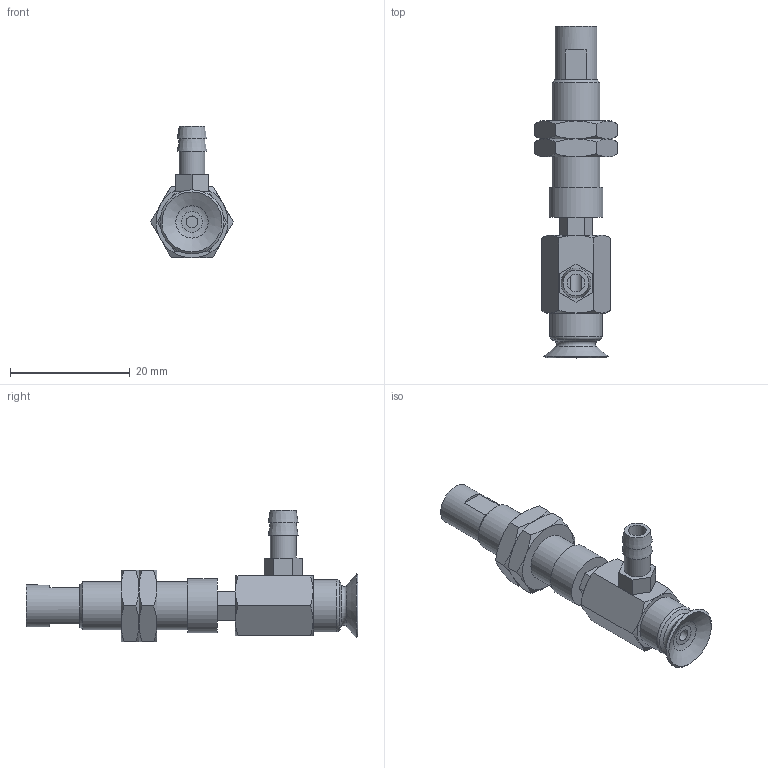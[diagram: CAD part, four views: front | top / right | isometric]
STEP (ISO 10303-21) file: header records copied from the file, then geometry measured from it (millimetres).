
FILE_DESCRIPTION(('STEP AP203'),'1');
FILE_NAME('-T.stp','2025-04-10T03:22:15',(' '),(' '),'Spatial InterOp 3D',' ',' ');
FILE_SCHEMA(('CONFIG_CONTROL_DESIGN'));
Length unit declared in the file: millimetre
Products named in the file (7): BNABPFYH-10A-3-※-T; CONNECTOR-H-10A-3; Nut-10A-3-h; NAPFTH-10A-3-FBODY; NAPFTH-10A-3-MBODY; BPFG-10A-※; T
Assembly tree (7 placements, depth 2):
  BNABPFYH-10A-3-※-T
    CONNECTOR-H-10A-3
    Nut-10A-3-h  x2
    NAPFTH-10A-3-FBODY
    NAPFTH-10A-3-MBODY
    BPFG-10A-※
    T
Bounding box: 13.86 x 55.5 x 22 mm (x, y, z)
Volume: 3554.2 mm3; surface area: 4496.2 mm2
Topology: 7 solids, 7 shells, 157 faces, 335 edges, 206 vertices
Faces by surface type: plane 76, cone 54, cylinder 18, torus 8, bspline 1
Full cylindrical faces by diameter (mm): 2 x2, 3 x1, 4 x2, 4.134 x2, 4.3 x1, 5 x2, 6 x2, 7 x1, 7.188 x2, 8 x1, 8.7 x1, 9 x1
Entity records: 3949 total; most frequent: CARTESIAN_POINT 925, DIRECTION 556, ORIENTED_EDGE 476, EDGE_CURVE 238, AXIS2_PLACEMENT_3D 231, EDGE_LOOP 200, VERTEX_POINT 170, FACE_OUTER_BOUND 160
